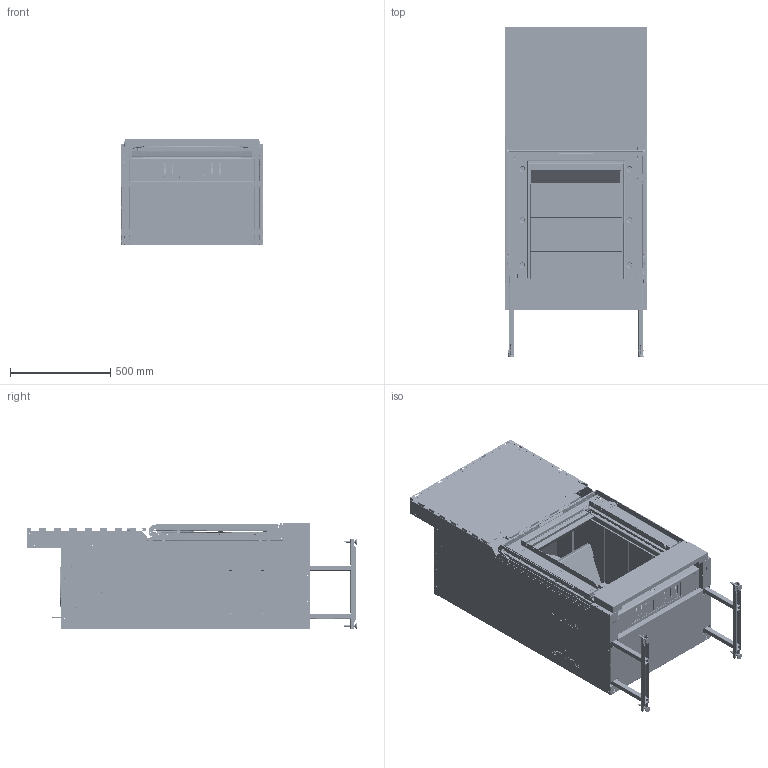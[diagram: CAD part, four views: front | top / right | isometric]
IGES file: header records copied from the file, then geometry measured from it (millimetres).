
Start section:  PTC IGES file: 2270.igs
Global section: file name: 2270.igs; native system: Creo Parametric by PTC Inc.; preprocessor: 2015480; author: dch; organization: Unknown; date: 20160607.101328; units: millimetre
Bounding box: 708.6 x 1648.1 x 531.5 mm (x, y, z)
Volume: 39291887.5 mm3; surface area: 15873831.5 mm2
Topology: 26 solids, 47 shells, 10191 faces, 27483 edges, 17247 vertices
Faces by surface type: bspline 6769, revolution 3420, extrusion 2
